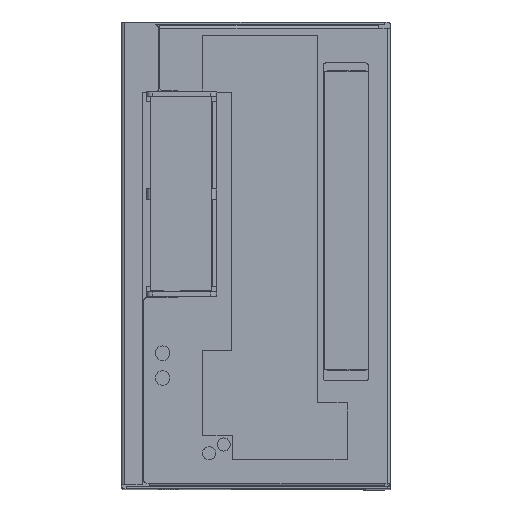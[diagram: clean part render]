
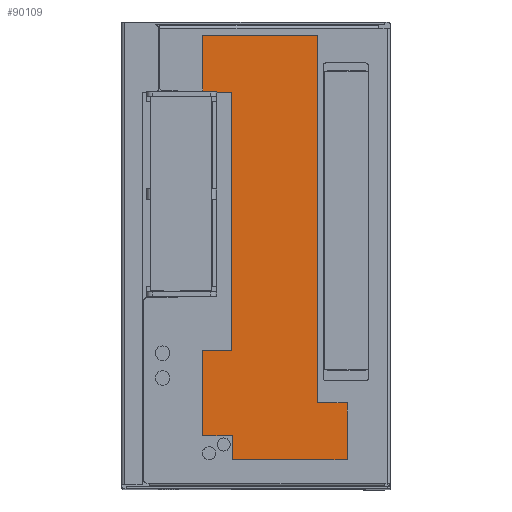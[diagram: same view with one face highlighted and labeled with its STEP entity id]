
A CAD part, top view. The second image highlights one B-rep face of the part: STEP entity #90109.
In plain terms, the highlighted planar face has unit normal (0, 0, 1).
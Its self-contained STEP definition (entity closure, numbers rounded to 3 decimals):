
#59985 = CARTESIAN_POINT ( 'NONE',  ( -14.8, 10., -1. ) ) ;
#59986 = CARTESIAN_POINT ( 'NONE',  ( -54.05, 10., -1. ) ) ;
#59988 = CARTESIAN_POINT ( 'NONE',  ( -64.3, 136., -1. ) ) ;
#59998 = CARTESIAN_POINT ( 'NONE',  ( -64.3, 155.5, -1. ) ) ;
#60009 = AXIS2_PLACEMENT_3D ( 'NONE', #60079, #60078, #60077 ) ;
#60010 = PLANE ( 'NONE',  #60009 ) ;
#60027 = FACE_OUTER_BOUND ( 'NONE', #90156, .T. ) ;
#60028 = CARTESIAN_POINT ( 'NONE',  ( -24.8, 155.5, -1. ) ) ;
#60030 = CARTESIAN_POINT ( 'NONE',  ( -14.8, 29.5, -1. ) ) ;
#60050 = DIRECTION ( 'NONE',  ( 0., -1., 0. ) ) ;
#60051 = VECTOR ( 'NONE', #60050, 1000. ) ;
#60052 = CARTESIAN_POINT ( 'NONE',  ( -54.3, 136., -1. ) ) ;
#60053 = LINE ( 'NONE', #60052, #60051 ) ;
#60060 = DIRECTION ( 'NONE',  ( 0., 1., 0. ) ) ;
#60061 = VECTOR ( 'NONE', #60060, 1000. ) ;
#60063 = CARTESIAN_POINT ( 'NONE',  ( -14.8, 10., -1. ) ) ;
#60064 = LINE ( 'NONE', #60063, #60061 ) ;
#60066 = CARTESIAN_POINT ( 'NONE',  ( -54.05, 18.25, -1. ) ) ;
#60067 = DIRECTION ( 'NONE',  ( -1., 0., 0. ) ) ;
#60068 = VECTOR ( 'NONE', #60067, 1000. ) ;
#60069 = CARTESIAN_POINT ( 'NONE',  ( -24.8, 155.5, -1. ) ) ;
#60070 = LINE ( 'NONE', #60069, #60068 ) ;
#60071 = DIRECTION ( 'NONE',  ( 0., 1., 0. ) ) ;
#60072 = VECTOR ( 'NONE', #60071, 1000. ) ;
#60073 = CARTESIAN_POINT ( 'NONE',  ( -24.8, 29.5, -1. ) ) ;
#60074 = LINE ( 'NONE', #60073, #60072 ) ;
#60075 = CARTESIAN_POINT ( 'NONE',  ( -54.3, 47.5, -1. ) ) ;
#60077 = DIRECTION ( 'NONE',  ( -1., 0., 0. ) ) ;
#60078 = DIRECTION ( 'NONE',  ( 0., 0., -1. ) ) ;
#60079 = CARTESIAN_POINT ( 'NONE',  ( -91., 0., -1. ) ) ;
#60082 = DIRECTION ( 'NONE',  ( 0., -1., 0. ) ) ;
#60083 = VECTOR ( 'NONE', #60082, 1000. ) ;
#60084 = CARTESIAN_POINT ( 'NONE',  ( -54.05, 18.25, -1. ) ) ;
#60085 = LINE ( 'NONE', #60084, #60083 ) ;
#60086 = DIRECTION ( 'NONE',  ( 1., 0., 0. ) ) ;
#60087 = VECTOR ( 'NONE', #60086, 1000. ) ;
#60088 = CARTESIAN_POINT ( 'NONE',  ( -64.3, 18.25, -1. ) ) ;
#60093 = LINE ( 'NONE', #60088, #60087 ) ;
#60134 = DIRECTION ( 'NONE',  ( 0., -1., 0. ) ) ;
#60135 = VECTOR ( 'NONE', #60134, 1000. ) ;
#60136 = CARTESIAN_POINT ( 'NONE',  ( -64.3, 47.5, -1. ) ) ;
#60137 = LINE ( 'NONE', #60136, #60135 ) ;
#60138 = DIRECTION ( 'NONE',  ( -1., 0., 0. ) ) ;
#60139 = VECTOR ( 'NONE', #60138, 1000. ) ;
#60140 = CARTESIAN_POINT ( 'NONE',  ( -54.3, 47.5, -1. ) ) ;
#60141 = LINE ( 'NONE', #60140, #60139 ) ;
#60155 = CARTESIAN_POINT ( 'NONE',  ( -64.3, 18.25, -1. ) ) ;
#60156 = CARTESIAN_POINT ( 'NONE',  ( -64.3, 47.5, -1. ) ) ;
#60187 = DIRECTION ( 'NONE',  ( 1., 0., 0. ) ) ;
#60188 = VECTOR ( 'NONE', #60187, 1000. ) ;
#60189 = CARTESIAN_POINT ( 'NONE',  ( -54.05, 10., -1. ) ) ;
#60190 = LINE ( 'NONE', #60189, #60188 ) ;
#60195 = CARTESIAN_POINT ( 'NONE',  ( -54.3, 136., -1. ) ) ;
#60196 = CARTESIAN_POINT ( 'NONE',  ( -24.8, 29.5, -1. ) ) ;
#60247 = DIRECTION ( 'NONE',  ( 1., 0., 0. ) ) ;
#60248 = VECTOR ( 'NONE', #60247, 1000. ) ;
#60249 = CARTESIAN_POINT ( 'NONE',  ( -64.3, 136., -1. ) ) ;
#60250 = LINE ( 'NONE', #60249, #60248 ) ;
#60252 = DIRECTION ( 'NONE',  ( 0., -1., 0. ) ) ;
#60253 = VECTOR ( 'NONE', #60252, 1000. ) ;
#60254 = CARTESIAN_POINT ( 'NONE',  ( -64.3, 155.5, -1. ) ) ;
#60255 = LINE ( 'NONE', #60254, #60253 ) ;
#60256 = DIRECTION ( 'NONE',  ( -1., 0., 0. ) ) ;
#60257 = VECTOR ( 'NONE', #60256, 1000. ) ;
#60258 = CARTESIAN_POINT ( 'NONE',  ( -14.8, 29.5, -1. ) ) ;
#60259 = LINE ( 'NONE', #60258, #60257 ) ;
#90088 = VERTEX_POINT ( 'NONE', #59998 ) ;
#90090 = ORIENTED_EDGE ( 'NONE', *, *, #90205, .T. ) ;
#90094 = VERTEX_POINT ( 'NONE', #59988 ) ;
#90096 = VERTEX_POINT ( 'NONE', #59986 ) ;
#90097 = VERTEX_POINT ( 'NONE', #59985 ) ;
#90099 = ORIENTED_EDGE ( 'NONE', *, *, #90121, .T. ) ;
#90102 = VERTEX_POINT ( 'NONE', #60030 ) ;
#90105 = VERTEX_POINT ( 'NONE', #60028 ) ;
#90108 = ORIENTED_EDGE ( 'NONE', *, *, #90117, .T. ) ;
#90109 = ADVANCED_FACE ( 'NONE', ( #60027 ), #60010, .F. ) ;
#90111 = VERTEX_POINT ( 'NONE', #60075 ) ;
#90112 = ORIENTED_EDGE ( 'NONE', *, *, #90158, .T. ) ;
#90113 = EDGE_CURVE ( 'NONE', #90190, #90105, #60074, .T. ) ;
#90114 = ORIENTED_EDGE ( 'NONE', *, *, #90113, .T. ) ;
#90116 = ORIENTED_EDGE ( 'NONE', *, *, #90127, .T. ) ;
#90117 = EDGE_CURVE ( 'NONE', #90105, #90088, #60070, .T. ) ;
#90118 = VERTEX_POINT ( 'NONE', #60066 ) ;
#90119 = ORIENTED_EDGE ( 'NONE', *, *, #90130, .T. ) ;
#90121 = EDGE_CURVE ( 'NONE', #90097, #90102, #60064, .T. ) ;
#90123 = EDGE_CURVE ( 'NONE', #90193, #90111, #60053, .T. ) ;
#90127 = EDGE_CURVE ( 'NONE', #90147, #90118, #60093, .T. ) ;
#90130 = EDGE_CURVE ( 'NONE', #90118, #90096, #60085, .T. ) ;
#90145 = VERTEX_POINT ( 'NONE', #60156 ) ;
#90146 = ORIENTED_EDGE ( 'NONE', *, *, #90160, .T. ) ;
#90147 = VERTEX_POINT ( 'NONE', #60155 ) ;
#90156 = EDGE_LOOP ( 'NONE', ( #90157, #90099, #90186, #90114, #90108, #90090, #90191, #90198, #90112, #90146, #90116, #90119 ) ) ;
#90157 = ORIENTED_EDGE ( 'NONE', *, *, #90165, .T. ) ;
#90158 = EDGE_CURVE ( 'NONE', #90111, #90145, #60141, .T. ) ;
#90160 = EDGE_CURVE ( 'NONE', #90145, #90147, #60137, .T. ) ;
#90165 = EDGE_CURVE ( 'NONE', #90096, #90097, #60190, .T. ) ;
#90186 = ORIENTED_EDGE ( 'NONE', *, *, #90204, .T. ) ;
#90190 = VERTEX_POINT ( 'NONE', #60196 ) ;
#90191 = ORIENTED_EDGE ( 'NONE', *, *, #90207, .T. ) ;
#90193 = VERTEX_POINT ( 'NONE', #60195 ) ;
#90198 = ORIENTED_EDGE ( 'NONE', *, *, #90123, .T. ) ;
#90204 = EDGE_CURVE ( 'NONE', #90102, #90190, #60259, .T. ) ;
#90205 = EDGE_CURVE ( 'NONE', #90088, #90094, #60255, .T. ) ;
#90207 = EDGE_CURVE ( 'NONE', #90094, #90193, #60250, .T. ) ;
